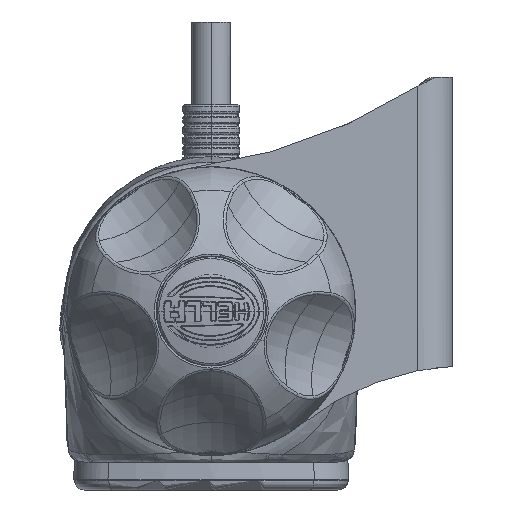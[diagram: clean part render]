
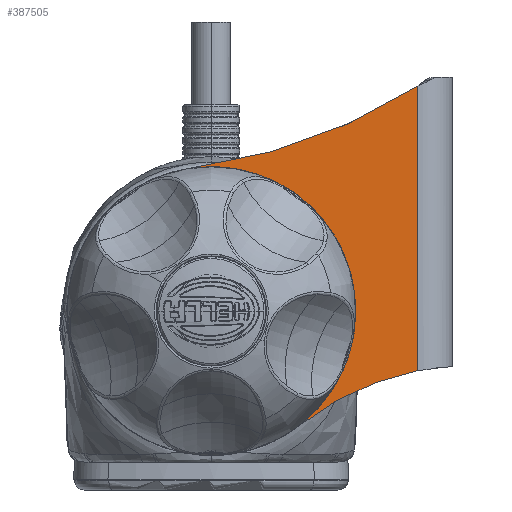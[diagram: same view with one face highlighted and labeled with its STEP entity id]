
A CAD part, left-side view. The second image highlights one B-rep face of the part: STEP entity #387505.
In plain terms, the highlighted planar face has unit normal (-1, 0, 0).
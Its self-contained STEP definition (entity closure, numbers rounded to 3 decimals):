
#387447=AXIS2_PLACEMENT_3D('Plane Axis2P3D',#387444,#387445,#387446) ;
#387324=CARTESIAN_POINT('Vertex',(-186.893,6.985,20.)) ;
#387328=CARTESIAN_POINT('Control Point',(-186.893,6.985,20.)) ;
#387329=CARTESIAN_POINT('Control Point',(-186.893,6.985,18.9)) ;
#387330=CARTESIAN_POINT('Control Point',(-186.893,6.769,17.801)) ;
#387331=CARTESIAN_POINT('Control Point',(-186.893,6.337,16.758)) ;
#387332=CARTESIAN_POINT('Control Point',(-186.893,5.087,14.898)) ;
#387333=CARTESIAN_POINT('Control Point',(-186.893,3.227,13.648)) ;
#387334=CARTESIAN_POINT('Control Point',(-186.893,2.184,13.216)) ;
#387335=CARTESIAN_POINT('Control Point',(-186.893,-0.015,12.784)) ;
#387336=CARTESIAN_POINT('Control Point',(-186.893,-2.214,13.216)) ;
#387337=CARTESIAN_POINT('Control Point',(-186.893,-3.257,13.648)) ;
#387338=CARTESIAN_POINT('Control Point',(-186.893,-5.118,14.898)) ;
#387339=CARTESIAN_POINT('Control Point',(-186.893,-6.367,16.758)) ;
#387340=CARTESIAN_POINT('Control Point',(-186.893,-6.799,17.801)) ;
#387341=CARTESIAN_POINT('Control Point',(-186.893,-7.015,18.9)) ;
#387342=CARTESIAN_POINT('Control Point',(-186.893,-7.015,20.)) ;
#387343=CARTESIAN_POINT('Vertex',(-186.893,-7.015,20.)) ;
#387377=CARTESIAN_POINT('Vertex',(-186.893,-30.015,11.335)) ;
#387381=CARTESIAN_POINT('Control Point',(-186.893,-13.016,3.508)) ;
#387382=CARTESIAN_POINT('Control Point',(-186.893,-16.725,6.432)) ;
#387383=CARTESIAN_POINT('Control Point',(-186.893,-20.894,8.772)) ;
#387384=CARTESIAN_POINT('Control Point',(-186.893,-25.383,10.418)) ;
#387385=CARTESIAN_POINT('Control Point',(-186.893,-30.015,11.335)) ;
#387386=CARTESIAN_POINT('Vertex',(-186.893,-13.016,3.508)) ;
#387407=CARTESIAN_POINT('Control Point',(-186.893,-30.015,52.684)) ;
#387408=CARTESIAN_POINT('Control Point',(-186.893,-22.622,47.976)) ;
#387409=CARTESIAN_POINT('Control Point',(-186.893,-14.54,44.348)) ;
#387410=CARTESIAN_POINT('Control Point',(-186.893,-6.011,41.952)) ;
#387411=CARTESIAN_POINT('Control Point',(-186.893,2.682,40.826)) ;
#387412=CARTESIAN_POINT('Vertex',(-186.893,-30.015,52.684)) ;
#387414=CARTESIAN_POINT('Vertex',(-186.893,2.682,40.826)) ;
#387444=CARTESIAN_POINT('Axis2P3D Location',(-186.893,-37.78,-27.904)) ;
#387450=CARTESIAN_POINT('Control Point',(-186.893,-30.015,11.335)) ;
#387451=CARTESIAN_POINT('Control Point',(-186.893,-30.015,52.684)) ;
#387454=CARTESIAN_POINT('Control Point',(-186.893,2.682,40.826)) ;
#387455=CARTESIAN_POINT('Control Point',(-186.893,4.133,40.638)) ;
#387456=CARTESIAN_POINT('Control Point',(-186.893,7.152,39.921)) ;
#387457=CARTESIAN_POINT('Control Point',(-186.893,11.411,37.844)) ;
#387458=CARTESIAN_POINT('Control Point',(-186.893,15.29,34.672)) ;
#387459=CARTESIAN_POINT('Control Point',(-186.893,18.212,30.794)) ;
#387460=CARTESIAN_POINT('Control Point',(-186.893,20.177,26.364)) ;
#387461=CARTESIAN_POINT('Control Point',(-186.893,21.104,21.717)) ;
#387462=CARTESIAN_POINT('Control Point',(-186.893,20.93,16.71)) ;
#387463=CARTESIAN_POINT('Control Point',(-186.893,19.615,12.036)) ;
#387464=CARTESIAN_POINT('Control Point',(-186.893,17.279,7.789)) ;
#387465=CARTESIAN_POINT('Control Point',(-186.893,14.144,4.236)) ;
#387466=CARTESIAN_POINT('Control Point',(-186.893,10.054,1.342)) ;
#387467=CARTESIAN_POINT('Control Point',(-186.893,5.539,-0.443)) ;
#387468=CARTESIAN_POINT('Control Point',(-186.893,0.745,-1.157)) ;
#387469=CARTESIAN_POINT('Control Point',(-186.893,-3.981,-0.814)) ;
#387470=CARTESIAN_POINT('Control Point',(-186.893,-8.762,0.686)) ;
#387471=CARTESIAN_POINT('Control Point',(-186.893,-11.654,2.435)) ;
#387472=CARTESIAN_POINT('Control Point',(-186.893,-13.016,3.508)) ;
#387481=CARTESIAN_POINT('Control Point',(-186.893,-7.015,20.)) ;
#387482=CARTESIAN_POINT('Control Point',(-186.893,-7.015,20.916)) ;
#387483=CARTESIAN_POINT('Control Point',(-186.893,-6.651,22.749)) ;
#387484=CARTESIAN_POINT('Control Point',(-186.893,-5.094,25.079)) ;
#387485=CARTESIAN_POINT('Control Point',(-186.893,-2.764,26.636)) ;
#387486=CARTESIAN_POINT('Control Point',(-186.893,-0.931,27.)) ;
#387487=CARTESIAN_POINT('Control Point',(-186.893,-0.015,27.)) ;
#387488=CARTESIAN_POINT('Vertex',(-186.893,-0.015,27.)) ;
#387492=CARTESIAN_POINT('Control Point',(-186.893,-0.015,27.)) ;
#387493=CARTESIAN_POINT('Control Point',(-186.893,0.901,27.)) ;
#387494=CARTESIAN_POINT('Control Point',(-186.893,2.733,26.636)) ;
#387495=CARTESIAN_POINT('Control Point',(-186.893,5.064,25.079)) ;
#387496=CARTESIAN_POINT('Control Point',(-186.893,6.621,22.749)) ;
#387497=CARTESIAN_POINT('Control Point',(-186.893,6.985,20.916)) ;
#387498=CARTESIAN_POINT('Control Point',(-186.893,6.985,20.)) ;
#387445=DIRECTION('Axis2P3D Direction',(1.,0.,0.)) ;
#387446=DIRECTION('Axis2P3D XDirection',(0.,1.,0.)) ;
#387475=ORIENTED_EDGE('',*,*,#387388,.T.) ;
#387476=ORIENTED_EDGE('',*,*,#387452,.T.) ;
#387477=ORIENTED_EDGE('',*,*,#387416,.T.) ;
#387478=ORIENTED_EDGE('',*,*,#387473,.T.) ;
#387501=ORIENTED_EDGE('',*,*,#387490,.F.) ;
#387502=ORIENTED_EDGE('',*,*,#387345,.F.) ;
#387503=ORIENTED_EDGE('',*,*,#387499,.F.) ;
#387504=FACE_BOUND('',#387500,.T.) ;
#387505=ADVANCED_FACE('Body (11)',(#387479,#387504),#387448,.F.) ;
#387327=B_SPLINE_CURVE_WITH_KNOTS('',5,(#387328,#387329,#387330,#387331,#387332,#387333,#387334,#387335,#387336,#387337,#387338,#387339,#387340,#387341,#387342),.UNSPECIFIED.,.F.,.U.,(6,3,3,3,6),(0.,0.25,0.5,0.75,1.),.UNSPECIFIED.) ;
#387380=B_SPLINE_CURVE_WITH_KNOTS('',4,(#387381,#387382,#387383,#387384,#387385),.UNSPECIFIED.,.F.,.U.,(5,5),(0.,1.),.UNSPECIFIED.) ;
#387406=B_SPLINE_CURVE_WITH_KNOTS('',4,(#387407,#387408,#387409,#387410,#387411),.UNSPECIFIED.,.F.,.U.,(5,5),(0.,1.),.UNSPECIFIED.) ;
#387345=EDGE_CURVE('',#387325,#387344,#387327,.T.) ;
#387388=EDGE_CURVE('',#387387,#387378,#387380,.T.) ;
#387416=EDGE_CURVE('',#387413,#387415,#387406,.T.) ;
#387452=EDGE_CURVE('',#387378,#387413,#387449,.T.) ;
#387473=EDGE_CURVE('',#387415,#387387,#387453,.T.) ;
#387490=EDGE_CURVE('',#387344,#387489,#387480,.T.) ;
#387499=EDGE_CURVE('',#387489,#387325,#387491,.T.) ;
#387474=EDGE_LOOP('',(#387475,#387476,#387477,#387478)) ;
#387500=EDGE_LOOP('',(#387501,#387502,#387503)) ;
#387479=FACE_OUTER_BOUND('',#387474,.T.) ;
#387448=PLANE('',#387447) ;
#387325=VERTEX_POINT('',#387324) ;
#387344=VERTEX_POINT('',#387343) ;
#387378=VERTEX_POINT('',#387377) ;
#387387=VERTEX_POINT('',#387386) ;
#387413=VERTEX_POINT('',#387412) ;
#387415=VERTEX_POINT('',#387414) ;
#387489=VERTEX_POINT('',#387488) ;
#387449=(BOUNDED_CURVE()B_SPLINE_CURVE(1,(#387450,#387451),.UNSPECIFIED.,.F.,.U.)B_SPLINE_CURVE_WITH_KNOTS((2,2),(0.,41.349),.UNSPECIFIED.)CURVE()GEOMETRIC_REPRESENTATION_ITEM()RATIONAL_B_SPLINE_CURVE((1.,1.))REPRESENTATION_ITEM('')) ;
#387453=(BOUNDED_CURVE()B_SPLINE_CURVE(3,(#387454,#387455,#387456,#387457,#387458,#387459,#387460,#387461,#387462,#387463,#387464,#387465,#387466,#387467,#387468,#387469,#387470,#387471,#387472),.UNSPECIFIED.,.F.,.U.)B_SPLINE_CURVE_WITH_KNOTS((4,1,1,1,1,1,1,1,1,1,1,1,1,1,1,1,4),(0.,4.42,9.318,14.21,19.446,23.865,28.763,33.656,38.891,43.311,48.209,53.102,58.337,62.756,67.655,72.547,77.783),.UNSPECIFIED.)CURVE()GEOMETRIC_REPRESENTATION_ITEM()RATIONAL_B_SPLINE_CURVE((1.,1.,1.,1.,1.,1.,1.,1.,1.,1.,1.,1.,1.,1.,1.,1.,1.,1.,1.))REPRESENTATION_ITEM('')) ;
#387480=(BOUNDED_CURVE()B_SPLINE_CURVE(3,(#387481,#387482,#387483,#387484,#387485,#387486,#387487),.UNSPECIFIED.,.F.,.U.)B_SPLINE_CURVE_WITH_KNOTS((4,1,1,1,4),(0.,2.793,5.587,8.38,11.174),.UNSPECIFIED.)CURVE()GEOMETRIC_REPRESENTATION_ITEM()RATIONAL_B_SPLINE_CURVE((1.,1.,1.,1.,1.,1.,1.))REPRESENTATION_ITEM('')) ;
#387491=(BOUNDED_CURVE()B_SPLINE_CURVE(3,(#387492,#387493,#387494,#387495,#387496,#387497,#387498),.UNSPECIFIED.,.F.,.U.)B_SPLINE_CURVE_WITH_KNOTS((4,1,1,1,4),(0.,2.793,5.587,8.38,11.174),.UNSPECIFIED.)CURVE()GEOMETRIC_REPRESENTATION_ITEM()RATIONAL_B_SPLINE_CURVE((1.,1.,1.,1.,1.,1.,1.))REPRESENTATION_ITEM('')) ;
